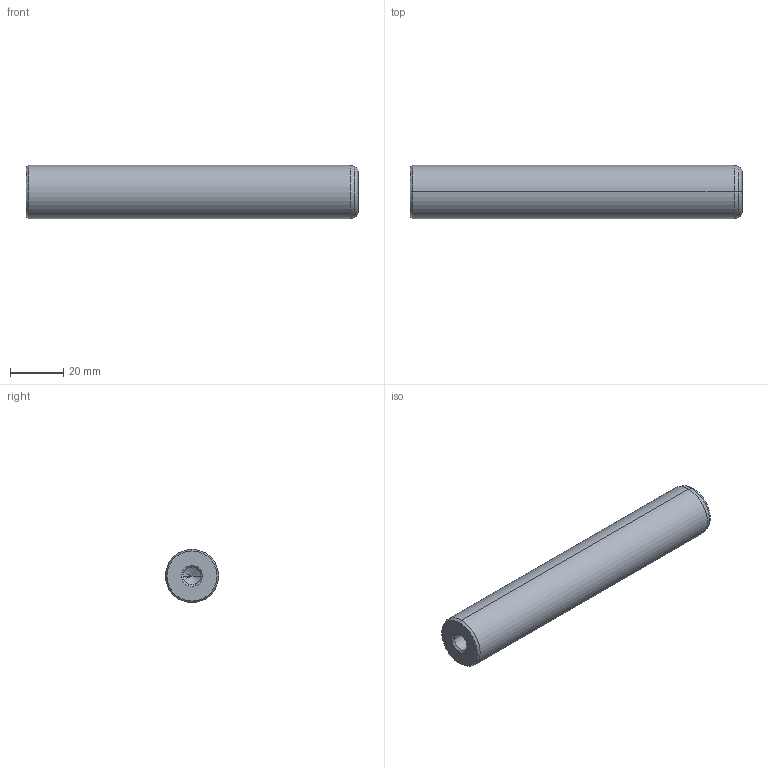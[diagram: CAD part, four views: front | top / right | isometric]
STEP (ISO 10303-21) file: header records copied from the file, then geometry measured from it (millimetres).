
FILE_DESCRIPTION(('CATIA V5 STEP Exchange'),'2;1');
FILE_NAME('C:\Users\Utente\Desktop\IO LAVORO\3D X SITO CF\X SITO\720\720-20x125.stp','2021-01-01T13:01:32+00:00',('none'),('none'),'CATIA Version 5 Release 20 GA (IN-10)','CATIA V5 STEP AP203','none');
FILE_SCHEMA(('CONFIG_CONTROL_DESIGN'));
Length unit declared in the file: millimetre
Products named in the file (1): 720-20x125
Bounding box: 125 x 20 x 20 mm (x, y, z)
Volume: 37432.8 mm3; surface area: 9375.5 mm2
Topology: 1 solids, 1 shells, 22 faces, 62 edges, 40 vertices
Faces by surface type: cone 12, cylinder 6, plane 2, torus 2
Entity records: 800 total; most frequent: CARTESIAN_POINT 223, ORIENTED_EDGE 116, DIRECTION 93, EDGE_CURVE 58, AXIS2_PLACEMENT_3D 54, VERTEX_POINT 40, CIRCLE 31, EDGE_LOOP 24
